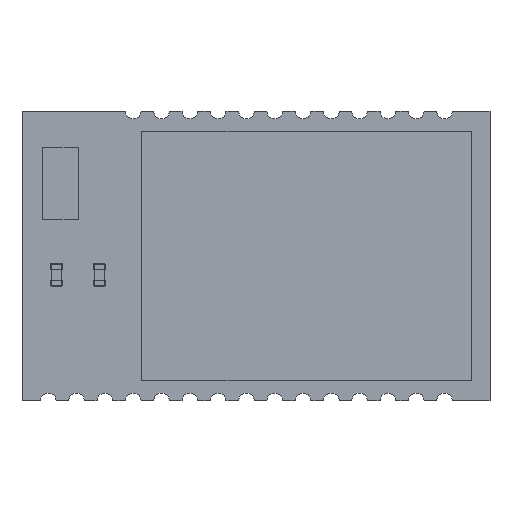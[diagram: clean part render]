
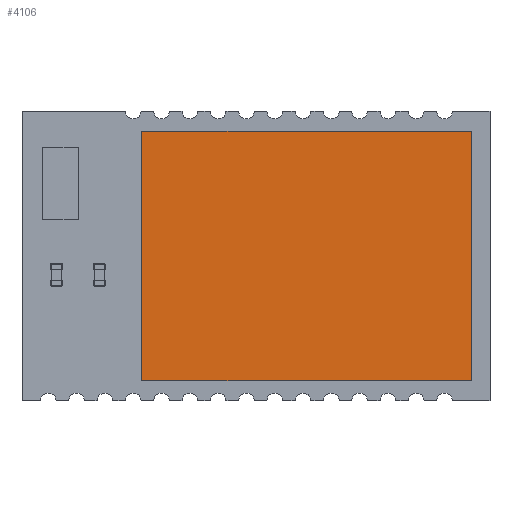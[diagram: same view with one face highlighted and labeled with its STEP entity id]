
A CAD part, top view. The second image highlights one B-rep face of the part: STEP entity #4106.
In plain terms, the highlighted planar face has unit normal (0, 0, 1).
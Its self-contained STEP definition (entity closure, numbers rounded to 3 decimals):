
#3977 = VERTEX_POINT('',#3978);
#3978 = CARTESIAN_POINT('',(-7.4,5.6,1.6));
#3984 = EDGE_CURVE('',#3977,#3985,#3987,.T.);
#3985 = VERTEX_POINT('',#3986);
#3986 = CARTESIAN_POINT('',(7.4,5.6,1.6));
#3987 = LINE('',#3988,#3989);
#3988 = CARTESIAN_POINT('',(-7.4,5.6,1.6));
#3989 = VECTOR('',#3990,1.);
#3990 = DIRECTION('',(1.,0.,0.));
#4015 = EDGE_CURVE('',#3985,#4016,#4018,.T.);
#4016 = VERTEX_POINT('',#4017);
#4017 = CARTESIAN_POINT('',(7.4,-5.6,1.6));
#4018 = LINE('',#4019,#4020);
#4019 = CARTESIAN_POINT('',(7.4,5.6,1.6));
#4020 = VECTOR('',#4021,1.);
#4021 = DIRECTION('',(0.,-1.,0.));
#4046 = EDGE_CURVE('',#4016,#4047,#4049,.T.);
#4047 = VERTEX_POINT('',#4048);
#4048 = CARTESIAN_POINT('',(-7.4,-5.6,1.6));
#4049 = LINE('',#4050,#4051);
#4050 = CARTESIAN_POINT('',(7.4,-5.6,1.6));
#4051 = VECTOR('',#4052,1.);
#4052 = DIRECTION('',(-1.,0.,0.));
#4077 = EDGE_CURVE('',#4047,#3977,#4078,.T.);
#4078 = LINE('',#4079,#4080);
#4079 = CARTESIAN_POINT('',(-7.4,-5.6,1.6));
#4080 = VECTOR('',#4081,1.);
#4081 = DIRECTION('',(0.,1.,0.));
#4106 = ADVANCED_FACE('',(#4107),#4113,.T.);
#4107 = FACE_BOUND('',#4108,.F.);
#4108 = EDGE_LOOP('',(#4109,#4110,#4111,#4112));
#4109 = ORIENTED_EDGE('',*,*,#3984,.T.);
#4110 = ORIENTED_EDGE('',*,*,#4015,.T.);
#4111 = ORIENTED_EDGE('',*,*,#4046,.T.);
#4112 = ORIENTED_EDGE('',*,*,#4077,.T.);
#4113 = PLANE('',#4114);
#4114 = AXIS2_PLACEMENT_3D('',#4115,#4116,#4117);
#4115 = CARTESIAN_POINT('',(-7.4,5.6,1.6));
#4116 = DIRECTION('',(0.,0.,1.));
#4117 = DIRECTION('',(1.,0.,0.));
